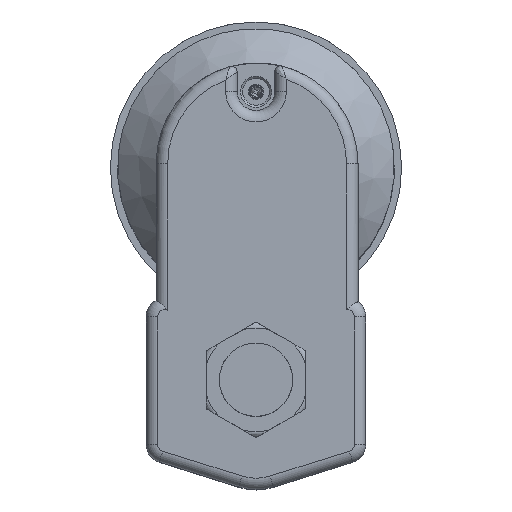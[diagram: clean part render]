
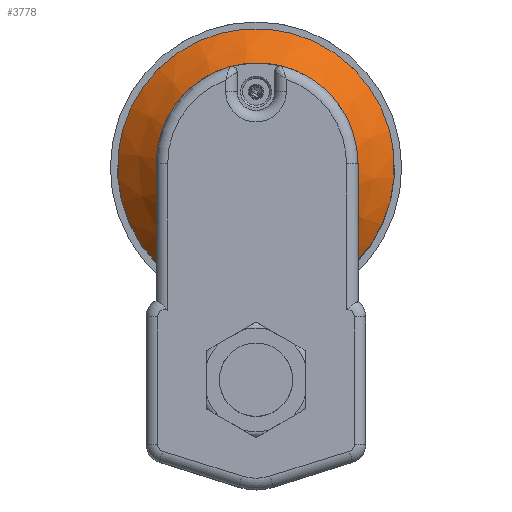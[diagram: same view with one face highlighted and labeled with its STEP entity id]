
A CAD part, top view. The second image highlights one B-rep face of the part: STEP entity #3778.
In plain terms, the highlighted conical face has half-angle 45 degrees and reference radius 48 mm.
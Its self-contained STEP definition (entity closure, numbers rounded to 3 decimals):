
#205 = AXIS2_PLACEMENT_3D ( 'NONE', #5781, #5791, #5792 ) ;
#210 = AXIS2_PLACEMENT_3D ( 'NONE', #5794, #5823, #5824 ) ;
#385 = AXIS2_PLACEMENT_3D ( 'NONE', #4005, #4006, #3995 ) ;
#1794 = CIRCLE ( 'NONE', #205, 48. ) ;
#1796 = CIRCLE ( 'NONE', #210, 34. ) ;
#2133 = FACE_OUTER_BOUND ( 'NONE', #3836, .T. ) ;
#2139 = FACE_BOUND ( 'NONE', #3805, .T. ) ;
#2140 = CONICAL_SURFACE ( 'NONE', #385, 48., 0.785 ) ;
#2505 = EDGE_CURVE ( 'NONE', #4911, #4910, #1794, .T. ) ;
#2506 = EDGE_CURVE ( 'NONE', #4910, #4911, #3895, .T. ) ;
#2508 = EDGE_CURVE ( 'NONE', #4507, #4507, #1796, .T. ) ;
#3778 = ADVANCED_FACE ( 'NONE', ( #2139, #2133 ), #2140, .T. ) ;
#3805 = EDGE_LOOP ( 'NONE', ( #4879 ) ) ;
#3836 = EDGE_LOOP ( 'NONE', ( #4894, #4872 ) ) ;
#3895 = B_SPLINE_CURVE_WITH_KNOTS ( 'NONE', 3,
 ( #5790, #5795, #5796, #5797, #5798, #5799, #5800, #5801, #5802, #5803, #5804, #5805, #5806, #5807, #5808, #5809, #5810, #5811, #5812, #5813, #5814, #5815, #5816, #5817, #5818, #5819 ),
 .UNSPECIFIED., .F., .F.,
 ( 4, 2, 2, 2, 2, 2, 2, 2, 2, 2, 2, 2, 4 ),
 ( 0., 0.004, 0.007, 0.015, 0.018, 0.022, 0.026, 0.029, 0.037, 0.04, 0.044, 0.051, 0.059 ),
 .UNSPECIFIED. ) ;
#3995 = DIRECTION ( 'NONE',  ( 0., 1., 0. ) ) ;
#4005 = CARTESIAN_POINT ( 'NONE',  ( 0., 73.9, 53.5 ) ) ;
#4006 = DIRECTION ( 'NONE',  ( 0., 0., -1. ) ) ;
#4314 = CARTESIAN_POINT ( 'NONE',  ( -27.908, 34.847, 53.5 ) ) ;
#4315 = CARTESIAN_POINT ( 'NONE',  ( 27.908, 34.847, 53.5 ) ) ;
#4507 = VERTEX_POINT ( 'NONE', #4508 ) ;
#4508 = CARTESIAN_POINT ( 'NONE',  ( 0., 39.9, 67.5 ) ) ;
#4872 = ORIENTED_EDGE ( 'NONE', *, *, #2506, .T. ) ;
#4879 = ORIENTED_EDGE ( 'NONE', *, *, #2508, .F. ) ;
#4894 = ORIENTED_EDGE ( 'NONE', *, *, #2505, .T. ) ;
#4910 = VERTEX_POINT ( 'NONE', #4314 ) ;
#4911 = VERTEX_POINT ( 'NONE', #4315 ) ;
#5781 = CARTESIAN_POINT ( 'NONE',  ( 0., 73.9, 53.5 ) ) ;
#5790 = CARTESIAN_POINT ( 'NONE',  ( -27.908, 34.847, 53.5 ) ) ;
#5791 = DIRECTION ( 'NONE',  ( 0., 0., 1. ) ) ;
#5792 = DIRECTION ( 'NONE',  ( 0., -1., 0. ) ) ;
#5794 = CARTESIAN_POINT ( 'NONE',  ( 0., 73.9, 67.5 ) ) ;
#5795 = CARTESIAN_POINT ( 'NONE',  ( -26.826, 34.768, 54.065 ) ) ;
#5796 = CARTESIAN_POINT ( 'NONE',  ( -25.733, 34.688, 54.609 ) ) ;
#5797 = CARTESIAN_POINT ( 'NONE',  ( -23.531, 34.53, 55.644 ) ) ;
#5798 = CARTESIAN_POINT ( 'NONE',  ( -22.421, 34.452, 56.137 ) ) ;
#5799 = CARTESIAN_POINT ( 'NONE',  ( -19.06, 34.223, 57.53 ) ) ;
#5800 = CARTESIAN_POINT ( 'NONE',  ( -16.779, 34.077, 58.344 ) ) ;
#5801 = CARTESIAN_POINT ( 'NONE',  ( -13.28, 33.887, 59.356 ) ) ;
#5802 = CARTESIAN_POINT ( 'NONE',  ( -12.101, 33.829, 59.657 ) ) ;
#5803 = CARTESIAN_POINT ( 'NONE',  ( -9.715, 33.725, 60.183 ) ) ;
#5804 = CARTESIAN_POINT ( 'NONE',  ( -8.505, 33.679, 60.407 ) ) ;
#5805 = CARTESIAN_POINT ( 'NONE',  ( -6.081, 33.605, 60.767 ) ) ;
#5806 = CARTESIAN_POINT ( 'NONE',  ( -4.863, 33.577, 60.903 ) ) ;
#5807 = CARTESIAN_POINT ( 'NONE',  ( -2.415, 33.538, 61.085 ) ) ;
#5808 = CARTESIAN_POINT ( 'NONE',  ( -1.188, 33.529, 61.13 ) ) ;
#5809 = CARTESIAN_POINT ( 'NONE',  ( 2.477, 33.529, 61.127 ) ) ;
#5810 = CARTESIAN_POINT ( 'NONE',  ( 4.908, 33.569, 60.942 ) ) ;
#5811 = CARTESIAN_POINT ( 'NONE',  ( 8.537, 33.68, 60.402 ) ) ;
#5812 = CARTESIAN_POINT ( 'NONE',  ( 9.746, 33.726, 60.177 ) ) ;
#5813 = CARTESIAN_POINT ( 'NONE',  ( 12.13, 33.83, 59.65 ) ) ;
#5814 = CARTESIAN_POINT ( 'NONE',  ( 13.307, 33.888, 59.348 ) ) ;
#5815 = CARTESIAN_POINT ( 'NONE',  ( 16.801, 34.078, 58.337 ) ) ;
#5816 = CARTESIAN_POINT ( 'NONE',  ( 19.078, 34.224, 57.523 ) ) ;
#5817 = CARTESIAN_POINT ( 'NONE',  ( 23.55, 34.529, 55.668 ) ) ;
#5818 = CARTESIAN_POINT ( 'NONE',  ( 25.745, 34.688, 54.629 ) ) ;
#5819 = CARTESIAN_POINT ( 'NONE',  ( 27.908, 34.847, 53.5 ) ) ;
#5823 = DIRECTION ( 'NONE',  ( 0., 0., 1. ) ) ;
#5824 = DIRECTION ( 'NONE',  ( 0., -1., 0. ) ) ;
